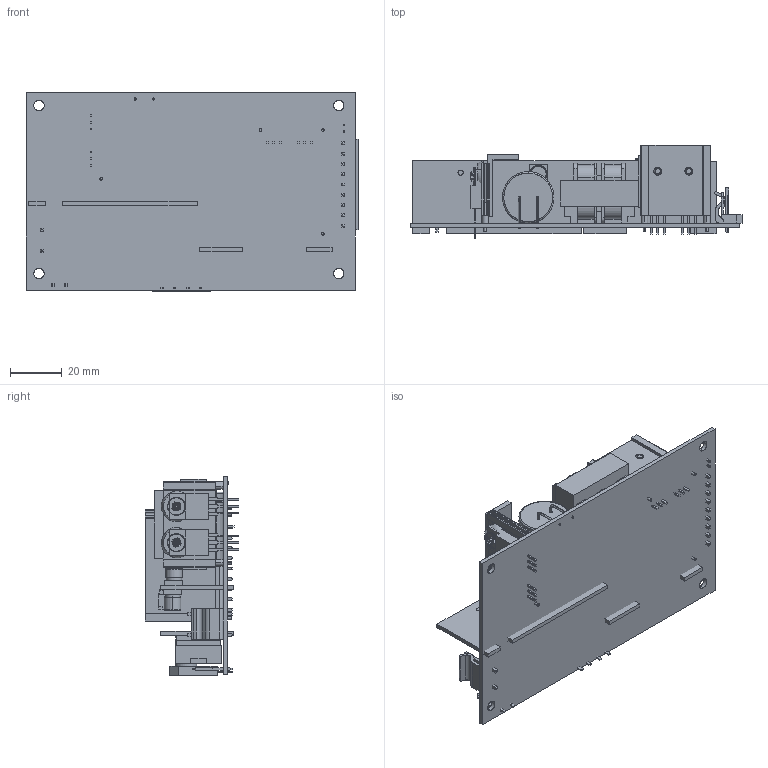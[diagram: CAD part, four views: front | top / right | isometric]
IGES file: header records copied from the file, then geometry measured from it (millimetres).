
Start section: SolidWorks IGES file using analytic representation for surfaces
Global section: file name: D:\SW-work\snp-p15x\snp-p15x.IGS; native system: SolidWorks 2014; preprocessor: SolidWorks 2014; author: mech1; date: 141111.110255; units: millimetre
Bounding box: 128 x 36 x 76.7 mm (x, y, z)
Surface area: 58092.5 mm2 (no closed solid volume)
Topology: 0 solids, 0 shells, 1255 faces, 11276 edges, 11276 vertices
Faces by surface type: bspline 1019, revolution 236
